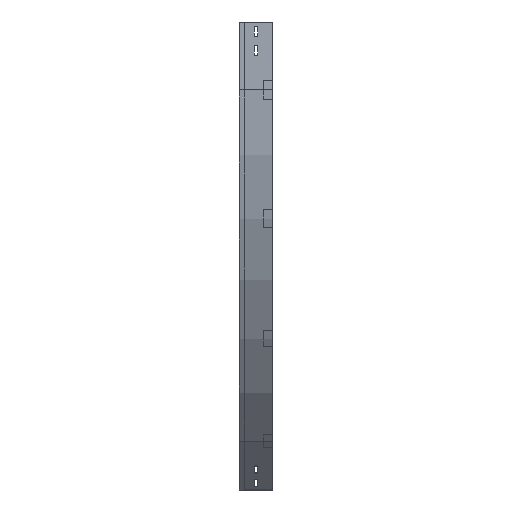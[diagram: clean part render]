
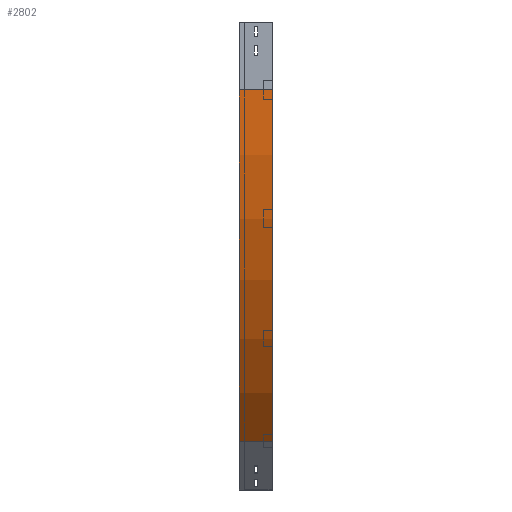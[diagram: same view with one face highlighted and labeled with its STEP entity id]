
A CAD part, left-side view. The second image highlights one B-rep face of the part: STEP entity #2802.
In plain terms, the highlighted cylindrical face has radius 1100 mm (diameter 2200 mm), a partial arc.
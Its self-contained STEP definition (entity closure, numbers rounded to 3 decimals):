
#29 = DIRECTION ( 'NONE',  ( -1., 0., 0. ) ) ;
#46 = VECTOR ( 'NONE', #1620, 1000. ) ;
#54 = DIRECTION ( 'NONE',  ( 0., 0., -1. ) ) ;
#64 = VECTOR ( 'NONE', #3553, 1000. ) ;
#156 = CIRCLE ( 'NONE', #2838, 1100. ) ;
#266 = EDGE_CURVE ( 'NONE', #1295, #336, #3202, .T. ) ;
#331 = CARTESIAN_POINT ( 'NONE',  ( 1100., 75., -150. ) ) ;
#336 = VERTEX_POINT ( 'NONE', #2073 ) ;
#394 = FACE_OUTER_BOUND ( 'NONE', #1535, .T. ) ;
#592 = DIRECTION ( 'NONE',  ( -1., 0., 0. ) ) ;
#611 = CARTESIAN_POINT ( 'NONE',  ( 1100., 0., -150. ) ) ;
#1189 = EDGE_CURVE ( 'NONE', #3006, #336, #2628, .T. ) ;
#1217 = ORIENTED_EDGE ( 'NONE', *, *, #2454, .F. ) ;
#1280 = CARTESIAN_POINT ( 'NONE',  ( 0., 75., -150. ) ) ;
#1295 = VERTEX_POINT ( 'NONE', #1531 ) ;
#1531 = CARTESIAN_POINT ( 'NONE',  ( 0., 0., -150. ) ) ;
#1535 = EDGE_LOOP ( 'NONE', ( #2360, #1217, #3031, #2753 ) ) ;
#1581 = CYLINDRICAL_SURFACE ( 'NONE', #2731, 1100. ) ;
#1606 = EDGE_CURVE ( 'NONE', #2460, #3006, #156, .T. ) ;
#1620 = DIRECTION ( 'NONE',  ( 0., -1., 0. ) ) ;
#1769 = DIRECTION ( 'NONE',  ( 0., -1., 0. ) ) ;
#1814 = AXIS2_PLACEMENT_3D ( 'NONE', #611, #1769, #592 ) ;
#1882 = DIRECTION ( 'NONE',  ( 0., -1., 0. ) ) ;
#2073 = CARTESIAN_POINT ( 'NONE',  ( 322.183, 0., -927.817 ) ) ;
#2178 = CARTESIAN_POINT ( 'NONE',  ( 1100., 0., -150. ) ) ;
#2360 = ORIENTED_EDGE ( 'NONE', *, *, #266, .F. ) ;
#2454 = EDGE_CURVE ( 'NONE', #2460, #1295, #2841, .T. ) ;
#2460 = VERTEX_POINT ( 'NONE', #1280 ) ;
#2628 = LINE ( 'NONE', #2646, #64 ) ;
#2646 = CARTESIAN_POINT ( 'NONE',  ( 322.183, 0., -927.817 ) ) ;
#2715 = DIRECTION ( 'NONE',  ( 0., -1., 0. ) ) ;
#2731 = AXIS2_PLACEMENT_3D ( 'NONE', #2178, #1882, #54 ) ;
#2753 = ORIENTED_EDGE ( 'NONE', *, *, #1189, .T. ) ;
#2756 = CARTESIAN_POINT ( 'NONE',  ( 0., 0., -150. ) ) ;
#2802 = ADVANCED_FACE ( 'NONE', ( #394 ), #1581, .T. ) ;
#2838 = AXIS2_PLACEMENT_3D ( 'NONE', #331, #2715, #29 ) ;
#2841 = LINE ( 'NONE', #2756, #46 ) ;
#2936 = CARTESIAN_POINT ( 'NONE',  ( 322.183, 75., -927.817 ) ) ;
#3006 = VERTEX_POINT ( 'NONE', #2936 ) ;
#3031 = ORIENTED_EDGE ( 'NONE', *, *, #1606, .T. ) ;
#3202 = CIRCLE ( 'NONE', #1814, 1100. ) ;
#3553 = DIRECTION ( 'NONE',  ( 0., -1., 0. ) ) ;
